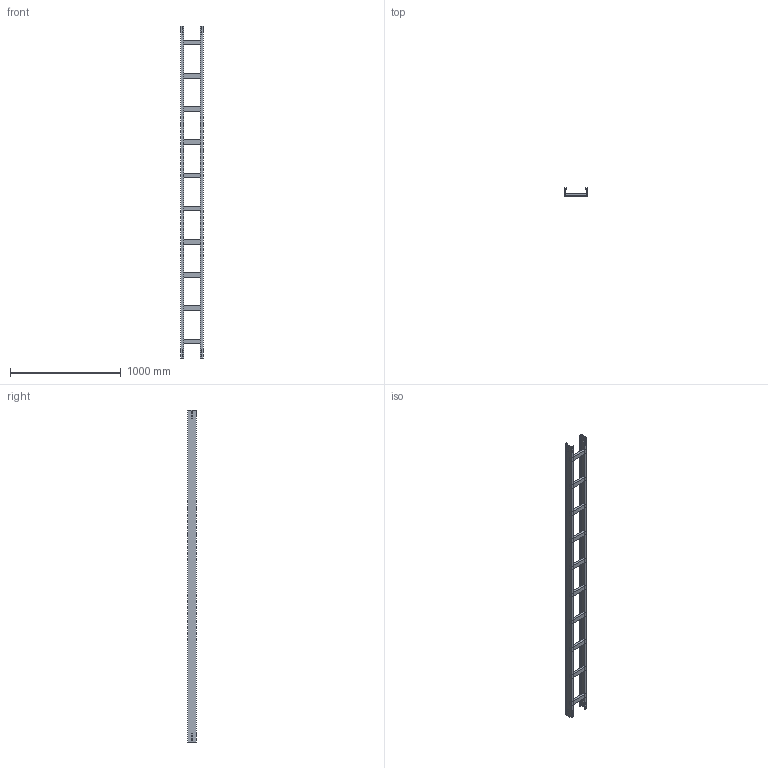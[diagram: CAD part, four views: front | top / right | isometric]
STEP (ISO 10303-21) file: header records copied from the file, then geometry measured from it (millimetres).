
FILE_DESCRIPTION (( 'STEP AP214' ), '1' );
FILE_NAME ('01B3C200.step', '2025-02-21T16:00:43', ( '' ), ( '' ), 'SwSTEP 2.0', 'SolidWorks 2023', '' );
FILE_SCHEMA (( 'AUTOMOTIVE_DESIGN' ));
Length unit declared in the file: millimetre
Products named in the file (3): TRAVERSINO_200; LONGH.H75; 01B3C200
Assembly tree (12 placements, depth 2):
  01B3C200
    LONGH.H75  x2
    TRAVERSINO_200  x10
Bounding box: 200 x 75 x 3000 mm (x, y, z)
Volume: 3934672 mm3; surface area: 1667856 mm2
Topology: 12 solids, 12 shells, 144 faces, 360 edges, 240 vertices
Faces by surface type: plane 144
Entity records: 1696 total; most frequent: CARTESIAN_POINT 283, ORIENTED_EDGE 264, DIRECTION 258, EDGE_CURVE 132, VECTOR 132, LINE 132, VERTEX_POINT 88, EDGE_LOOP 64
